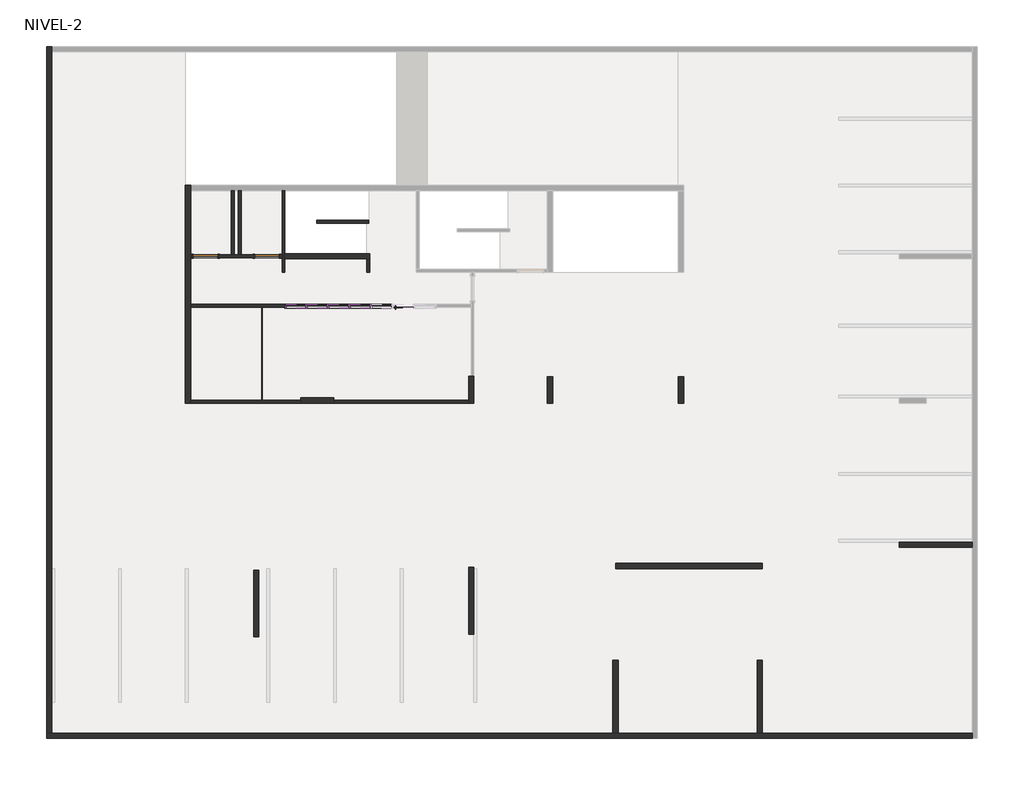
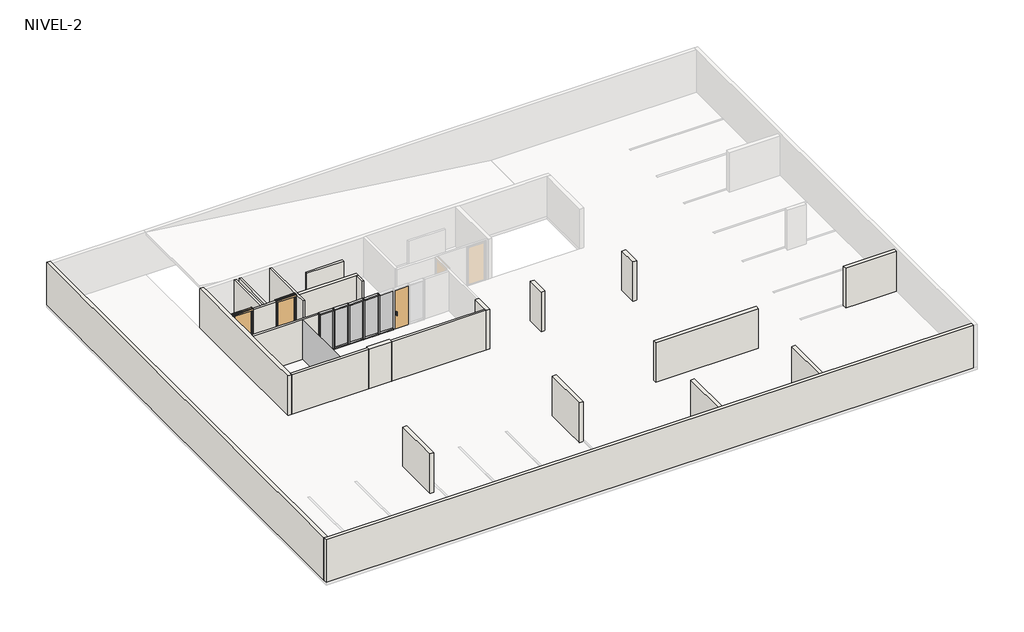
# One storey, part 1 of 2: 23 walls, 14 members, 6 plates, 3 doors.
"""IFC4 building model written with IfcOpenShell, lengths in millimetres."""

from ifc_helpers import new_model, si_unit, frame, origin, place, context, project, spatial, polyline, outline, extrude, faceted_brep, transform, mapped, element, save
from components import m_door_curtain_wall_single_glass_m_door_curtain_wall_single_b32948e9, m_single_flush_910x_224_031eae0d, m_single_flush_910x_224_b1cae8a4, rectangular_mullion_50_x_150mm_ddcdbc05, rectangular_mullion_50_x_150mm_77bbb7d4, rectangular_mullion_50_x_150mm_79b53f25, rectangular_mullion_50_x_150mm_de483d99, system_panel_cr_shower_cfc948e8, system_panel_glazed_f50cad0b, system_panel_glazed_bc2b5b42

model = new_model("IFC4")

# Units and contexts
model_context = context("Model", 3, world=origin())
ifc_project = project(units=[si_unit("LENGTHUNIT", "METRE", prefix="MILLI")], contexts=[model_context])

# Site, building, storey
site = spatial("IfcSite", under=ifc_project)
building = spatial("IfcBuilding", under=site)
storey = spatial("IfcBuildingStorey", under=building, Name="NIVEL-2", Elevation=-6900.0)

# Doors
placement = place(None, origin())
m_door_curtain_wall_single_glass_m_door_curtain_wall_single_shape = m_door_curtain_wall_single_glass_m_door_curtain_wall_single_b32948e9(model_context)
element("IfcDoor", 1, ObjectType="M_Door-Curtain-Wall-Single-Glass : M_Door-Curtain-Wall-Single-Glass", at=placement, inside=storey, context=model_context, shape_type="MappedRepresentation", body=[
    mapped(m_door_curtain_wall_single_glass_m_door_curtain_wall_single_shape, transform((-15131.0934745, 8658.9139241, -6920.0), x_axis=(1.0, 0.0, 0.0), y_axis=(0.0, 1.0, 0.0), z_axis=(0.0, 0.0, 1.0))),
])
m_single_flush_910x_224_shape = m_single_flush_910x_224_031eae0d(model_context)
element("IfcDoor", 2, ObjectType="M_Single-Flush : 910x 224", at=placement, inside=storey, context=model_context, shape_type="MappedRepresentation", body=[
    mapped(m_single_flush_910x_224_shape, transform((-22526.8934748, 10533.9139241, -6900.0), x_axis=(-1.0, 0.0, 0.0), y_axis=(0.0, -1.0, 0.0), z_axis=(0.0, 0.0, 1.0))),
])
m_single_flush_910x_224_2_shape = m_single_flush_910x_224_b1cae8a4(model_context)
element("IfcDoor", 3, ObjectType="M_Single-Flush : 910x 224", at=placement, inside=storey, context=model_context, shape_type="MappedRepresentation", body=[
    mapped(m_single_flush_910x_224_2_shape, transform((-20226.0934748, 10533.9139241, -6900.0), x_axis=(1.0, 0.0, 0.0), y_axis=(0.0, 1.0, 0.0), z_axis=(0.0, 0.0, 1.0))),
])

# Members
rectangular_mullion_50_x_150mm_shape = rectangular_mullion_50_x_150mm_ddcdbc05(model_context)
element("IfcMember", 4, ObjectType="Rectangular Mullion : 50 x 150mm", at=placement, inside=storey, context=model_context, shape_type="MappedRepresentation", body=[
    mapped(rectangular_mullion_50_x_150mm_shape, transform((-19508.5934748, 8658.9139241, -6920.0), x_axis=(0.0, 0.0, -1.0), y_axis=(0.0, -1.0, 0.0), z_axis=(-1.0, 0.0, 0.0))),
])
element("IfcMember", 5, ObjectType="Rectangular Mullion : 50 x 150mm", at=placement, inside=storey, context=model_context, shape_type="MappedRepresentation", body=[
    mapped(rectangular_mullion_50_x_150mm_shape, transform((-18778.5934745, 8658.9139241, -4670.0), x_axis=(0.0, 0.0, 1.0), y_axis=(0.0, -1.0, 0.0), z_axis=(1.0, 0.0, 0.0))),
])
rectangular_mullion_50_x_150mm_2_shape = rectangular_mullion_50_x_150mm_77bbb7d4(model_context)
element("IfcMember", 6, ObjectType="Rectangular Mullion : 50 x 150mm", at=placement, inside=storey, context=model_context, shape_type="MappedRepresentation", body=[
    mapped(rectangular_mullion_50_x_150mm_2_shape, transform((-17973.5934745, 8658.9139241, -4670.0), x_axis=(0.0, 0.0, 1.0), y_axis=(0.0, -1.0, 0.0), z_axis=(1.0, 0.0, 0.0))),
])
element("IfcMember", 7, ObjectType="Rectangular Mullion : 50 x 150mm", at=placement, inside=storey, context=model_context, shape_type="MappedRepresentation", body=[
    mapped(rectangular_mullion_50_x_150mm_2_shape, transform((-17168.5934745, 8658.9139241, -4670.0), x_axis=(0.0, 0.0, 1.0), y_axis=(0.0, -1.0, 0.0), z_axis=(1.0, 0.0, 0.0))),
])
element("IfcMember", 8, ObjectType="Rectangular Mullion : 50 x 150mm", at=placement, inside=storey, context=model_context, shape_type="MappedRepresentation", body=[
    mapped(rectangular_mullion_50_x_150mm_2_shape, transform((-16363.5934745, 8658.9139241, -4670.0), x_axis=(0.0, 0.0, 1.0), y_axis=(0.0, -1.0, 0.0), z_axis=(1.0, 0.0, 0.0))),
])
element("IfcMember", 9, ObjectType="Rectangular Mullion : 50 x 150mm", at=placement, inside=storey, context=model_context, shape_type="MappedRepresentation", body=[
    mapped(rectangular_mullion_50_x_150mm_2_shape, transform((-18728.5934745, 8658.9139241, -6920.0), x_axis=(0.0, 0.0, -1.0), y_axis=(0.0, -1.0, 0.0), z_axis=(-1.0, 0.0, 0.0))),
])
element("IfcMember", 10, ObjectType="Rectangular Mullion : 50 x 150mm", at=placement, inside=storey, context=model_context, shape_type="MappedRepresentation", body=[
    mapped(rectangular_mullion_50_x_150mm_2_shape, transform((-17923.5934745, 8658.9139241, -6920.0), x_axis=(0.0, 0.0, -1.0), y_axis=(0.0, -1.0, 0.0), z_axis=(-1.0, 0.0, 0.0))),
])
element("IfcMember", 11, ObjectType="Rectangular Mullion : 50 x 150mm", at=placement, inside=storey, context=model_context, shape_type="MappedRepresentation", body=[
    mapped(rectangular_mullion_50_x_150mm_2_shape, transform((-17118.5934745, 8658.9139241, -6920.0), x_axis=(0.0, 0.0, -1.0), y_axis=(0.0, -1.0, 0.0), z_axis=(-1.0, 0.0, 0.0))),
])
element("IfcMember", 12, ObjectType="Rectangular Mullion : 50 x 150mm", at=placement, inside=storey, context=model_context, shape_type="MappedRepresentation", body=[
    mapped(rectangular_mullion_50_x_150mm_2_shape, transform((-16313.5934745, 8658.9139241, -6920.0), x_axis=(0.0, 0.0, -1.0), y_axis=(0.0, -1.0, 0.0), z_axis=(-1.0, 0.0, 0.0))),
])
rectangular_mullion_50_x_150mm_3_shape = rectangular_mullion_50_x_150mm_79b53f25(model_context)
element("IfcMember", 13, ObjectType="Rectangular Mullion : 50 x 150mm", at=placement, inside=storey, context=model_context, shape_type="MappedRepresentation", body=[
    mapped(rectangular_mullion_50_x_150mm_3_shape, transform((-18753.5934745, 8658.9139241, -6920.0), x_axis=(1.0, 0.0, 0.0), y_axis=(0.0, -1.0, 0.0), z_axis=(0.0, 0.0, -1.0))),
])
element("IfcMember", 14, ObjectType="Rectangular Mullion : 50 x 150mm", at=placement, inside=storey, context=model_context, shape_type="MappedRepresentation", body=[
    mapped(rectangular_mullion_50_x_150mm_3_shape, transform((-17948.5934745, 8658.9139241, -6920.0), x_axis=(1.0, 0.0, 0.0), y_axis=(0.0, -1.0, 0.0), z_axis=(0.0, 0.0, -1.0))),
])
element("IfcMember", 15, ObjectType="Rectangular Mullion : 50 x 150mm", at=placement, inside=storey, context=model_context, shape_type="MappedRepresentation", body=[
    mapped(rectangular_mullion_50_x_150mm_3_shape, transform((-17143.5934745, 8658.9139241, -6920.0), x_axis=(1.0, 0.0, 0.0), y_axis=(0.0, -1.0, 0.0), z_axis=(0.0, 0.0, -1.0))),
])
element("IfcMember", 16, ObjectType="Rectangular Mullion : 50 x 150mm", at=placement, inside=storey, context=model_context, shape_type="MappedRepresentation", body=[
    mapped(rectangular_mullion_50_x_150mm_3_shape, transform((-16338.5934745, 8658.9139241, -6920.0), x_axis=(1.0, 0.0, 0.0), y_axis=(0.0, -1.0, 0.0), z_axis=(0.0, 0.0, -1.0))),
])
rectangular_mullion_50_x_150mm_4_shape = rectangular_mullion_50_x_150mm_de483d99(model_context)
element("IfcMember", 17, ObjectType="Rectangular Mullion : 50 x 150mm", at=placement, inside=storey, context=model_context, shape_type="MappedRepresentation", body=[
    mapped(rectangular_mullion_50_x_150mm_4_shape, transform((-19558.5934748, 8658.9139241, -4670.0), x_axis=(-1.0, 0.0, 0.0), y_axis=(0.0, -1.0, 0.0), z_axis=(0.0, 0.0, 1.0))),
])

# Plates
system_panel_cr_shower_shape = system_panel_cr_shower_cfc948e8(model_context)
element("IfcPlate", 18, ObjectType="System Panel : CR-SHOWER", at=placement, inside=storey, context=model_context, shape_type="MappedRepresentation", body=[
    mapped(system_panel_cr_shower_shape, transform((-20423.6434752, 6883.9139241, -6920.0), x_axis=(0.0, -1.0, 0.0), y_axis=(1.0, 0.0, 0.0), z_axis=(0.0, 0.0, 1.0))),
])
system_panel_glazed_shape = system_panel_glazed_f50cad0b(model_context)
element("IfcPlate", 19, ObjectType="System Panel : Glazed", at=placement, inside=storey, context=model_context, shape_type="MappedRepresentation", body=[
    mapped(system_panel_glazed_shape, transform((-19143.5934747, 8658.9139241, -6870.0), x_axis=(1.0, 0.0, 0.0), y_axis=(0.0, 1.0, 0.0), z_axis=(0.0, 0.0, 1.0))),
])
system_panel_glazed_2_shape = system_panel_glazed_bc2b5b42(model_context)
element("IfcPlate", 20, ObjectType="System Panel : Glazed", at=placement, inside=storey, context=model_context, shape_type="MappedRepresentation", body=[
    mapped(system_panel_glazed_2_shape, transform((-18351.0934745, 8658.9139241, -6870.0), x_axis=(1.0, 0.0, 0.0), y_axis=(0.0, 1.0, 0.0), z_axis=(0.0, 0.0, 1.0))),
])
element("IfcPlate", 21, ObjectType="System Panel : Glazed", at=placement, inside=storey, context=model_context, shape_type="MappedRepresentation", body=[
    mapped(system_panel_glazed_2_shape, transform((-17546.0934745, 8658.9139241, -6870.0), x_axis=(1.0, 0.0, 0.0), y_axis=(0.0, 1.0, 0.0), z_axis=(0.0, 0.0, 1.0))),
])
element("IfcPlate", 22, ObjectType="System Panel : Glazed", at=placement, inside=storey, context=model_context, shape_type="MappedRepresentation", body=[
    mapped(system_panel_glazed_2_shape, transform((-16741.0934745, 8658.9139241, -6870.0), x_axis=(1.0, 0.0, 0.0), y_axis=(0.0, 1.0, 0.0), z_axis=(0.0, 0.0, 1.0))),
])
element("IfcPlate", 23, ObjectType="System Panel : Glazed", at=placement, inside=storey, context=model_context, shape_type="MappedRepresentation", body=[
    mapped(system_panel_glazed_2_shape, transform((-15936.0934745, 8658.9139241, -6870.0), x_axis=(1.0, 0.0, 0.0), y_axis=(0.0, 1.0, 0.0), z_axis=(0.0, 0.0, 1.0))),
])

# Walls
element("IfcWall", 24, ObjectType="SCV.TI.A.110.090.143.47.1", at=placement, inside=storey, context=model_context, shape_type="SweptSolid", body=[
    extrude(outline(polyline([(-23084.3934748, 5143.9139241), (-18958.5934748, 5143.9139241), (-18958.5934748, 5033.9139241), (-23084.3934748, 5033.9139241), (-23084.3934748, 5143.9139241)])), frame((0.0, 0.0, -6920.0), z_axis=(0.0, 0.0, 1.0), x_axis=(1.0, 0.0, 0.0)), (0.0, 0.0, 1.0), 2250.0),
])
element("IfcWall", 25, ObjectType="SCV.TI.A.110.090.143.47.1", at=placement, inside=storey, context=model_context, shape_type="SweptSolid", body=[
    extrude(outline(polyline([(-17733.587274, 5143.9139241), (-12683.5934748, 5143.9139241), (-12683.5934748, 5033.9139241), (-17733.587274, 5033.9139241), (-17733.587274, 5143.9139241)])), frame((0.0, 0.0, -6920.0), z_axis=(0.0, 0.0, 1.0), x_axis=(1.0, 0.0, 0.0)), (0.0, 0.0, 1.0), 2250.0),
])
element("IfcWall", 26, ObjectType="SCV.TI.A.110.090.143.47.1", at=placement, inside=storey, context=model_context, shape_type="Brep", body=[
    faceted_brep([(-19558.5934748, 9933.9139241, -6920.0), (-19558.5934748, 10433.9139241, -6920.0), (-19558.5934748, 10633.9139241, -6920.0), (-19558.5934748, 12984.7139241, -6920.0), (-19558.5934748, 12984.7139241, -4670.0), (-19558.5934748, 10633.9139241, -4670.0), (-19558.5934748, 10433.9139241, -4670.0), (-19558.5934748, 9933.9139241, -4670.0), (-19668.5934748, 9933.9139241, -6920.0), (-19668.5934748, 9933.9139241, -4670.0), (-19668.5934748, 10478.9139241, -4670.0), (-19668.5934748, 10588.9139241, -4670.0), (-19668.5934748, 12984.7139241, -4670.0), (-19668.5934748, 12984.7139241, -6920.0), (-19668.5934748, 10588.9139241, -6920.0), (-19668.5934748, 10478.9139241, -6920.0)], [[[0, 1, 2, 3, 4, 5, 6, 7]], [[8, 9, 10, 11, 12, 13, 14, 15]], [[3, 2, 1, 0, 8, 15, 14, 13]], [[7, 6, 5, 4, 12, 11, 10, 9]], [[0, 7, 9, 8]], [[4, 3, 13, 12]]]),
])
element("IfcWall", 27, ObjectType="SCV.TI.A.110.090.143.47.1", at=placement, inside=storey, context=model_context, shape_type="SweptSolid", body=[
    extrude(outline(polyline([(-16500.8934748, 9933.9139241), (-16500.8934748, 10433.9139241), (-16390.8934748, 10433.9139241), (-16390.8934748, 9933.9139241), (-16500.8934748, 9933.9139241)])), frame((0.0, 0.0, -6920.0), z_axis=(0.0, 0.0, 1.0), x_axis=(1.0, 0.0, 0.0)), (0.0, 0.0, 1.0), 2250.0),
])
element("IfcWall", 28, ObjectType="SCV.TI.A.110.090.143.47.1", at=placement, inside=storey, context=model_context, shape_type="Brep", body=[
    faceted_brep([(-23084.3934748, 10478.9139241, -6920.0), (-19668.5934748, 10478.9139241, -6920.0), (-19668.5934748, 10478.9139241, -4670.0), (-23084.3934748, 10478.9139241, -4670.0), (-22069.3934748, 10478.9139241, -6900.0), (-22984.3934748, 10478.9139241, -6900.0), (-22984.3934748, 10478.9139241, -4700.0), (-22069.3934748, 10478.9139241, -4700.0), (-20683.5934748, 10478.9139241, -6900.0), (-20683.5934748, 10478.9139241, -4700.0), (-19768.5934748, 10478.9139241, -4700.0), (-19768.5934748, 10478.9139241, -6900.0), (-23084.3934748, 10588.9139241, -6920.0), (-23084.3934748, 10588.9139241, -4670.0), (-21561.4934748, 10588.9139241, -4670.0), (-21451.4934748, 10588.9139241, -4670.0), (-21301.4934748, 10588.9139241, -4670.0), (-21191.4934748, 10588.9139241, -4670.0), (-19668.5934748, 10588.9139241, -4670.0), (-19668.5934748, 10588.9139241, -6920.0), (-21191.4934748, 10588.9139241, -6920.0), (-21301.4934748, 10588.9139241, -6920.0), (-21451.4934748, 10588.9139241, -6920.0), (-21561.4934748, 10588.9139241, -6920.0), (-22069.3934748, 10588.9139241, -6900.0), (-22069.3934748, 10588.9139241, -4700.0), (-22984.3934748, 10588.9139241, -4700.0), (-22984.3934748, 10588.9139241, -6900.0), (-20683.5934748, 10588.9139241, -6900.0), (-19768.5934748, 10588.9139241, -6900.0), (-19768.5934748, 10588.9139241, -4700.0), (-20683.5934748, 10588.9139241, -4700.0)], [[[0, 1, 2, 3], [4, 5, 6, 7], [8, 9, 10, 11]], [[12, 13, 14, 15, 16, 17, 18, 19, 20, 21, 22, 23], [24, 25, 26, 27], [28, 29, 30, 31]], [[1, 0, 12, 23, 22, 21, 20, 19]], [[3, 2, 18, 17, 16, 15, 14, 13]], [[0, 3, 13, 12]], [[2, 1, 19, 18]], [[5, 4, 24, 27]], [[6, 5, 27, 26]], [[7, 6, 26, 25]], [[4, 7, 25, 24]], [[29, 28, 8, 11]], [[30, 29, 11, 10]], [[31, 30, 10, 9]], [[28, 31, 9, 8]]]),
])
element("IfcWall", 29, ObjectType="SCV.TI.A.110.090.143.47.1", at=placement, inside=storey, context=model_context, shape_type="SweptSolid", body=[
    extrude(outline(polyline([(-21451.4934748, 12984.7139241), (-21451.4934748, 10588.9139241), (-21561.4934748, 10588.9139241), (-21561.4934748, 12984.7139241), (-21451.4934748, 12984.7139241)])), frame((0.0, 0.0, -6920.0), z_axis=(0.0, 0.0, 1.0), x_axis=(1.0, 0.0, 0.0)), (0.0, 0.0, 1.0), 2250.0),
])
element("IfcWall", 30, ObjectType="SCV.TI.A.110.090.143.47.1", at=placement, inside=storey, context=model_context, shape_type="SweptSolid", body=[
    extrude(outline(polyline([(-21191.4934748, 12984.7139241), (-21191.4934748, 10588.9139241), (-21301.4934748, 10588.9139241), (-21301.4934748, 12984.7139241), (-21191.4934748, 12984.7139241)])), frame((0.0, 0.0, -6920.0), z_axis=(0.0, 0.0, 1.0), x_axis=(1.0, 0.0, 0.0)), (0.0, 0.0, 1.0), 2250.0),
])
element("IfcWall", 31, ObjectType="SCV.TI.A.110.090.143.47.1", at=placement, inside=storey, context=model_context, shape_type="SweptSolid", body=[
    extrude(outline(polyline([(-23084.3934748, 8733.9139241), (-19558.5934748, 8733.9139241), (-19558.5934748, 8623.9139241), (-23084.3934748, 8623.9139241), (-23084.3934748, 8733.9139241)])), frame((0.0, 0.0, -6920.0), z_axis=(0.0, 0.0, 1.0), x_axis=(1.0, 0.0, 0.0)), (0.0, 0.0, 1.0), 2250.0),
])
element("IfcWall", 32, ObjectType="SCV.TI.A.110.090.143.47.1", at=placement, inside=storey, context=model_context, shape_type="SweptSolid", body=[
    extrude(outline(polyline([(-16415.8934748, 11766.6139241), (-18375.8934748, 11766.6139241), (-18375.8934748, 11876.6139241), (-16415.8934748, 11876.6139241), (-16415.8934748, 11766.6139241)])), frame((0.0, 0.0, -6920.0), z_axis=(0.0, 0.0, 1.0), x_axis=(1.0, 0.0, 0.0)), (0.0, 0.0, 1.0), 2250.0),
])
element("IfcWall", 33, ObjectType="HA-200mm", at=placement, inside=storey, context=model_context, shape_type="Brep", body=[
    faceted_brep([(-23084.3934748, 5033.9139241, -6920.0), (-23084.3934748, 5143.9139241, -6920.0), (-23084.3934748, 8623.9139241, -6920.0), (-23084.3934748, 8733.9139241, -6920.0), (-23084.3934748, 10478.9139241, -6920.0), (-23084.3934748, 10588.9139241, -6920.0), (-23084.3934748, 12984.7139241, -6920.0), (-23084.3934748, 13184.7139241, -6920.0), (-23084.3934748, 13184.7139241, -4670.0), (-23084.3934748, 12984.7139241, -4670.0), (-23084.3934748, 10588.9139241, -4670.0), (-23084.3934748, 10478.9139241, -4670.0), (-23084.3934748, 8733.9139241, -4670.0), (-23084.3934748, 8623.9139241, -4670.0), (-23084.3934748, 5143.9139241, -4670.0), (-23084.3934748, 5033.9139241, -4670.0), (-23284.3934748, 5033.9139241, -6920.0), (-23284.3934748, 5033.9139241, -4670.0), (-23284.3934748, 6183.9139241, -4670.0), (-23284.3934748, 13184.7139241, -4670.0), (-23284.3934748, 13184.7139241, -6920.0)], [[[0, 1, 2, 3, 4, 5, 6, 7, 8, 9, 10, 11, 12, 13, 14, 15]], [[16, 17, 18, 19, 20]], [[7, 6, 5, 4, 3, 2, 1, 0, 16, 20]], [[8, 7, 20, 19]], [[15, 14, 13, 12, 11, 10, 9, 8, 19, 18, 17]], [[0, 15, 17, 16]]]),
])
element("IfcWall", 34, ObjectType="HA-200mm", at=placement, inside=storey, context=model_context, shape_type="SweptSolid", body=[
    extrude(outline(polyline([(-1683.5934748, -1166.0860759), (-7183.5934748, -1166.0860759), (-7183.5934748, -966.0860759), (-1683.5934748, -966.0860759), (-1683.5934748, -1166.0860759)])), frame((0.0, 0.0, -6920.0), z_axis=(0.0, 0.0, 1.0), x_axis=(1.0, 0.0, 0.0)), (0.0, 0.0, 1.0), 2250.0),
])
element("IfcWall", 35, ObjectType="HA-200mm", at=placement, inside=storey, context=model_context, shape_type="SweptSolid", body=[
    extrude(outline(polyline([(-20733.5934748, -3716.0860759), (-20733.5934748, -1216.0860759), (-20533.5934748, -1216.0860759), (-20533.5934748, -3716.0860759), (-20733.5934748, -3716.0860759)])), frame((0.0, 0.0, -6920.0), z_axis=(0.0, 0.0, 1.0), x_axis=(1.0, 0.0, 0.0)), (0.0, 0.0, 1.0), 2250.0),
])
element("IfcWall", 36, ObjectType="HA-200mm", at=placement, inside=storey, context=model_context, shape_type="SweptSolid", body=[
    extrude(outline(polyline([(6166.4065252, -366.0860759), (3441.412726, -366.0860759), (3441.412726, -166.0860759), (6166.4065252, -166.0860759), (6166.4065252, -366.0860759)])), frame((0.0, 0.0, -6920.0), z_axis=(0.0, 0.0, 1.0), x_axis=(1.0, 0.0, 0.0)), (0.0, 0.0, 1.0), 2250.0),
])
element("IfcWall", 37, ObjectType="HA-200mm", at=placement, inside=storey, context=model_context, shape_type="Brep", body=[
    faceted_brep([(6166.4065252, -7316.0860759, -6920.0), (-1683.5934748, -7316.0860759, -6920.0), (-1883.5934748, -7316.0860759, -6920.0), (-7083.5934748, -7316.0860759, -6920.0), (-7283.5934748, -7316.0860759, -6920.0), (-28284.3934748, -7316.0860759, -6920.0), (-28484.3934748, -7316.0860759, -6920.0), (-28484.3934748, -7316.0860759, -4520.0), (-28284.3934748, -7316.0860759, -4520.0), (6166.4065252, -7316.0860759, -4520.0), (6166.4065252, -7516.0860759, -6920.0), (6166.4065252, -7516.0860759, -4520.0), (-28484.3934748, -7516.0860759, -4520.0), (-28484.3934748, -7516.0860759, -6920.0)], [[[0, 1, 2, 3, 4, 5, 6, 7, 8, 9]], [[10, 11, 12, 13]], [[6, 5, 4, 3, 2, 1, 0, 10, 13]], [[9, 8, 7, 12, 11]], [[0, 9, 11, 10]], [[7, 6, 13, 12]]]),
])
element("IfcWall", 38, ObjectType="HA-200mm", at=placement, inside=storey, context=model_context, shape_type="Brep", body=[
    faceted_brep([(-28484.3934748, 18384.7139241, -6920.0), (-28484.3934748, -7316.0860759, -6920.0), (-28484.3934748, -7316.0860759, -4520.0), (-28484.3934748, 18384.7139241, -4520.0), (-28284.3934748, 18384.7139241, -6920.0), (-28284.3934748, 18384.7139241, -4520.0), (-28284.3934748, 18184.7139241, -4520.0), (-28284.3934748, -7316.0860759, -4520.0), (-28284.3934748, -7316.0860759, -6920.0), (-28284.3934748, 18184.7139241, -6920.0)], [[[0, 1, 2, 3]], [[4, 5, 6, 7, 8, 9]], [[1, 0, 4, 9, 8]], [[3, 2, 7, 6, 5]], [[2, 1, 8, 7]], [[0, 3, 5, 4]]]),
])
element("IfcWall", 39, ObjectType="HA-200mm", at=placement, inside=storey, context=model_context, shape_type="SweptSolid", body=[
    extrude(outline(polyline([(-12683.5934748, -3616.0860759), (-12683.5934748, -1116.0860759), (-12483.5934748, -1116.0860759), (-12483.5934748, -3616.0860759), (-12683.5934748, -3616.0860759)])), frame((0.0, 0.0, -6920.0), z_axis=(0.0, 0.0, 1.0), x_axis=(1.0, 0.0, 0.0)), (0.0, 0.0, 1.0), 2250.0),
])
element("IfcWall", 40, ObjectType="HA-200mm", at=placement, inside=storey, context=model_context, shape_type="SweptSolid", body=[
    extrude(outline(polyline([(-7283.5934748, -7316.0860759), (-7283.5934748, -4590.5860759), (-7083.5934748, -4590.5860759), (-7083.5934748, -7316.0860759), (-7283.5934748, -7316.0860759)])), frame((0.0, 0.0, -6920.0), z_axis=(0.0, 0.0, 1.0), x_axis=(1.0, 0.0, 0.0)), (0.0, 0.0, 1.0), 2250.0),
])
element("IfcWall", 41, ObjectType="HA-200mm", at=placement, inside=storey, context=model_context, shape_type="SweptSolid", body=[
    extrude(outline(polyline([(-1883.5934748, -7316.0860759), (-1883.5934748, -4590.5860759), (-1683.5934748, -4590.5860759), (-1683.5934748, -7316.0860759), (-1883.5934748, -7316.0860759)])), frame((0.0, 0.0, -6920.0), z_axis=(0.0, 0.0, 1.0), x_axis=(1.0, 0.0, 0.0)), (0.0, 0.0, 1.0), 2250.0),
])
element("IfcWall", 42, ObjectType="HA-200mm", at=placement, inside=storey, context=model_context, shape_type="Brep", body=[
    faceted_brep([(-17733.587274, 5233.9139241, -6920.0), (-18958.5934748, 5233.9139241, -6920.0), (-18958.5934748, 5233.9139241, -4670.0), (-17733.587274, 5233.9139241, -4670.0), (-17733.587274, 5033.9139241, -6920.0), (-17733.587274, 5033.9139241, -4670.0), (-18958.5934748, 5033.9139241, -4670.0), (-18958.5934748, 5033.9139241, -6920.0), (-17733.587274, 5143.9139241, -6920.0), (-18958.5934748, 5143.9139241, -6920.0), (-18958.5934748, 5143.9139241, -4670.0), (-17733.587274, 5143.9139241, -4670.0)], [[[0, 1, 2, 3]], [[4, 5, 6, 7]], [[1, 0, 8, 4, 7, 9]], [[2, 1, 9, 7, 6, 10]], [[3, 2, 10, 6, 5, 11]], [[0, 3, 11, 5, 4, 8]]]),
])
element("IfcWall", 43, ObjectType="HA-200mm", at=placement, inside=storey, context=model_context, shape_type="Brep", body=[
    faceted_brep([(-16390.8934748, 10633.9139241, -6920.0), (-19558.5934748, 10633.9139241, -6920.0), (-19558.5934748, 10633.9139241, -4670.0), (-16390.8934748, 10633.9139241, -4670.0), (-16390.8934748, 10433.9139241, -6920.0), (-16390.8934748, 10433.9139241, -4670.0), (-16500.8934748, 10433.9139241, -4670.0), (-19558.5934748, 10433.9139241, -4670.0), (-19558.5934748, 10433.9139241, -6920.0), (-16500.8934748, 10433.9139241, -6920.0)], [[[0, 1, 2, 3]], [[4, 5, 6, 7, 8, 9]], [[1, 0, 4, 9, 8]], [[3, 2, 7, 6, 5]], [[2, 1, 8, 7]], [[0, 3, 5, 4]]]),
])
element("IfcWall", 44, ObjectType="HA-200mm", at=placement, inside=storey, context=model_context, shape_type="Brep", body=[
    faceted_brep([(-12683.5934748, 6033.9139241, -6920.0), (-12683.5934748, 5143.9139241, -6920.0), (-12683.5934748, 5033.9139241, -6920.0), (-12683.5934748, 5033.9139241, -4670.0), (-12683.5934748, 5143.9139241, -4670.0), (-12683.5934748, 6033.9139241, -4670.0), (-12483.5934748, 6033.9139241, -6920.0), (-12483.5934748, 6033.9139241, -4670.0), (-12483.5934748, 5033.9139241, -4670.0), (-12483.5934748, 5033.9139241, -6920.0), (-12593.5934748, 6033.9139241, -6920.0), (-12593.5934748, 6033.9139241, -4670.0)], [[[0, 1, 2, 3, 4, 5]], [[6, 7, 8, 9]], [[2, 1, 0, 10, 6, 9]], [[5, 4, 3, 8, 7, 11]], [[0, 5, 11, 7, 6, 10]], [[3, 2, 9, 8]]]),
])
element("IfcWall", 45, ObjectType="HA-200mm", at=placement, inside=storey, context=model_context, shape_type="SweptSolid", body=[
    extrude(outline(polyline([(-4833.5934748, 5024.0265595), (-4833.5934748, 6024.0265595), (-4633.5934748, 6024.0265595), (-4633.5934748, 5024.0265595), (-4833.5934748, 5024.0265595)])), frame((0.0, 0.0, -6920.0), z_axis=(0.0, 0.0, 1.0), x_axis=(1.0, 0.0, 0.0)), (0.0, 0.0, 1.0), 2250.0),
])
element("IfcWall", 46, ObjectType="HA-200mm", at=placement, inside=storey, context=model_context, shape_type="SweptSolid", body=[
    extrude(outline(polyline([(-9733.5934748, 5024.0265595), (-9733.5934748, 6024.0265595), (-9533.5934748, 6024.0265595), (-9533.5934748, 5024.0265595), (-9733.5934748, 5024.0265595)])), frame((0.0, 0.0, -6920.0), z_axis=(0.0, 0.0, 1.0), x_axis=(1.0, 0.0, 0.0)), (0.0, 0.0, 1.0), 2250.0),
])

save(model, "model.ifc")
